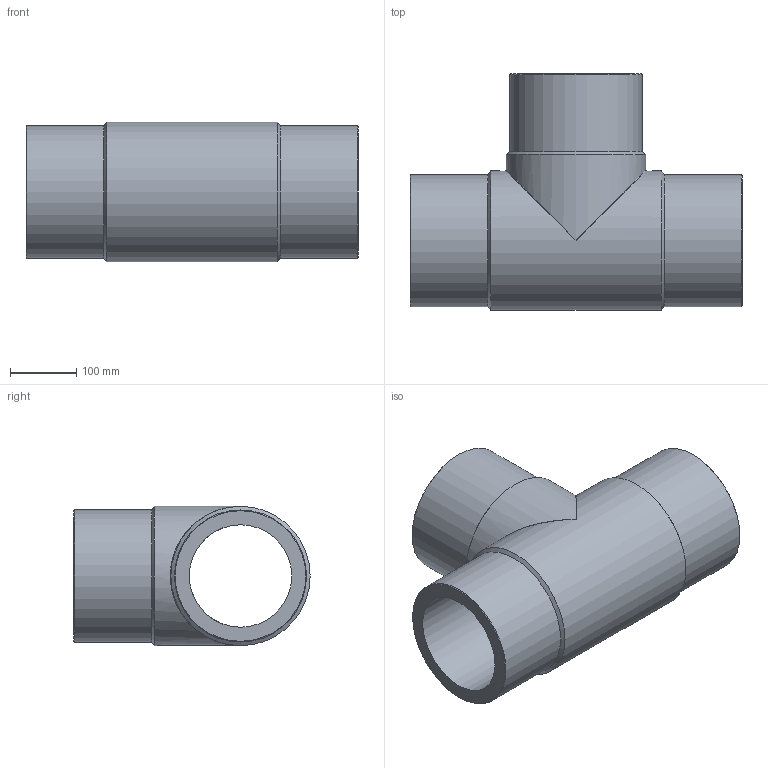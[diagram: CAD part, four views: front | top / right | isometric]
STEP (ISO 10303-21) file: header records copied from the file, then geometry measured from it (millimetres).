
FILE_DESCRIPTION(/* description */ ('Unknown'),/* implementation_level */ '2;1');
FILE_NAME(/* name */ 'TP200G',/* time_stamp */ '2021-08-05T17:16:40+02:00',/* author */ ('Unknown'),/* organization */ ('Unknown'),/* preprocessor_version */ 'ST-DEVELOPER v16.7',/* originating_system */ 'Solid Edge',/* authorisation */ 'Unknown');
FILE_SCHEMA (('AUTOMOTIVE_DESIGN {1 0 10303 214 3 1 1}'));
Length unit declared in the file: millimetre
Products named in the file (1): TP200G
Bounding box: 503 x 358 x 211 mm (x, y, z)
Volume: 8960322.1 mm3; surface area: 761207 mm2
Topology: 1 solids, 1 shells, 18 faces, 44 edges, 23 vertices
Faces by surface type: cylinder 7, cone 6, plane 3, bspline 2
Full cylindrical faces by diameter (mm): 155.2 x2, 200 x3, 211 x2
Entity records: 516 total; most frequent: CARTESIAN_POINT 159, DIRECTION 76, ORIENTED_EDGE 42, AXIS2_PLACEMENT_3D 38, EDGE_LOOP 36, FACE_BOUND 36, EDGE_CURVE 21, VERTEX_POINT 19
